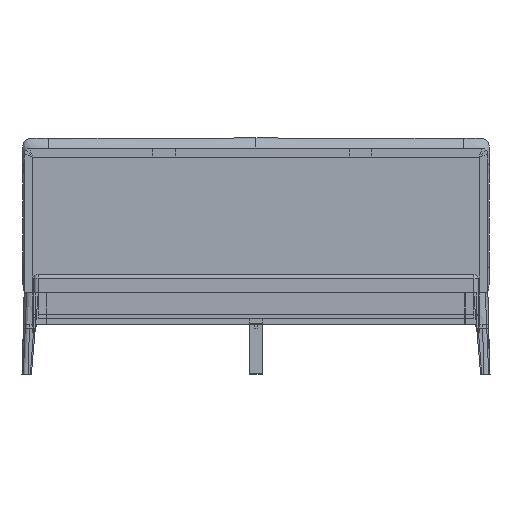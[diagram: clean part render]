
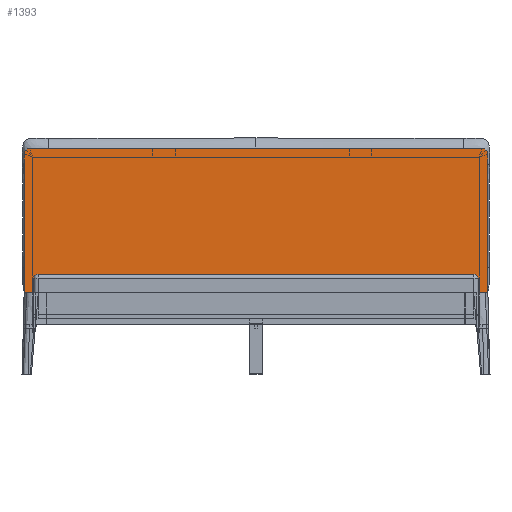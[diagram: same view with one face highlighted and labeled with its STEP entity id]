
A CAD part, front view. The second image highlights one B-rep face of the part: STEP entity #1393.
In plain terms, the highlighted planar face has unit normal (0, -1, 0).
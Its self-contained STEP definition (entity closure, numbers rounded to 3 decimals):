
#1393=ADVANCED_FACE('',(#2446),#15061,.T.);
#2446=FACE_OUTER_BOUND('',#3514,.T.);
#3514=EDGE_LOOP('',(#7783,#7784,#7785,#7786,#7787,#7788));
#7783=ORIENTED_EDGE('',*,*,#10365,.T.);
#7784=ORIENTED_EDGE('',*,*,#10319,.T.);
#7785=ORIENTED_EDGE('',*,*,#10322,.T.);
#7786=ORIENTED_EDGE('',*,*,#10364,.T.);
#7787=ORIENTED_EDGE('',*,*,#10349,.T.);
#7788=ORIENTED_EDGE('',*,*,#10345,.T.);
#10319=EDGE_CURVE('',#14170,#14172,#10823,.T.);
#10322=EDGE_CURVE('',#14172,#14173,#10826,.T.);
#10345=EDGE_CURVE('',#14189,#14188,#10836,.T.);
#10349=EDGE_CURVE('',#14190,#14189,#10840,.T.);
#10364=EDGE_CURVE('',#14173,#14190,#12774,.T.);
#10365=EDGE_CURVE('',#14188,#14170,#12775,.T.);
#10823=(
BOUNDED_CURVE()
B_SPLINE_CURVE(2,(#61551,#61552,#61553),.UNSPECIFIED.,.F.,.F.)
B_SPLINE_CURVE_WITH_KNOTS((3,3),(-10101.08,-9476.08),
 .UNSPECIFIED.)
CURVE()
GEOMETRIC_REPRESENTATION_ITEM()
RATIONAL_B_SPLINE_CURVE((1.,1.,1.))
REPRESENTATION_ITEM('')
);
#10826=(
BOUNDED_CURVE()
B_SPLINE_CURVE(2,(#61559,#61560,#61561),.UNSPECIFIED.,.F.,.F.)
B_SPLINE_CURVE_WITH_KNOTS((3,3),(-9476.08,-9436.81),
 .UNSPECIFIED.)
CURVE()
GEOMETRIC_REPRESENTATION_ITEM()
RATIONAL_B_SPLINE_CURVE((1.,0.707,1.))
REPRESENTATION_ITEM('')
);
#10836=(
BOUNDED_CURVE()
B_SPLINE_CURVE(2,(#61642,#61643,#61644),.UNSPECIFIED.,.F.,.F.)
B_SPLINE_CURVE_WITH_KNOTS((3,3),(-12612.08,-11987.08),
 .UNSPECIFIED.)
CURVE()
GEOMETRIC_REPRESENTATION_ITEM()
RATIONAL_B_SPLINE_CURVE((1.,1.,1.))
REPRESENTATION_ITEM('')
);
#10840=(
BOUNDED_CURVE()
B_SPLINE_CURVE(2,(#61652,#61653,#61654),.UNSPECIFIED.,.F.,.F.)
B_SPLINE_CURVE_WITH_KNOTS((3,3),(-7600.81,-7561.54),
 .UNSPECIFIED.)
CURVE()
GEOMETRIC_REPRESENTATION_ITEM()
RATIONAL_B_SPLINE_CURVE((1.,0.707,1.))
REPRESENTATION_ITEM('')
);
#12774=B_SPLINE_CURVE_WITH_KNOTS('',1,(#61739,#61740),.UNSPECIFIED.,.F.,
 .F.,(2,2),(0.,2036.),.UNSPECIFIED.);
#12775=B_SPLINE_CURVE_WITH_KNOTS('',1,(#61741,#61742),.UNSPECIFIED.,.F.,
 .F.,(2,2),(0.,2086.),.UNSPECIFIED.);
#14170=VERTEX_POINT('',#61436);
#14172=VERTEX_POINT('',#61438);
#14173=VERTEX_POINT('',#61439);
#14188=VERTEX_POINT('',#61454);
#14189=VERTEX_POINT('',#61455);
#14190=VERTEX_POINT('',#61456);
#15061=PLANE('',#15820);
#15820=AXIS2_PLACEMENT_3D('',#61418,#16498,$);
#16498=DIRECTION('',(0.,-1.,0.));
#61418=CARTESIAN_POINT('',(1095.292,-3475.216,1080.));
#61436=CARTESIAN_POINT('',(1043.,-3475.216,365.));
#61438=CARTESIAN_POINT('',(1043.,-3475.216,990.));
#61439=CARTESIAN_POINT('',(1018.,-3475.216,1015.));
#61454=CARTESIAN_POINT('',(-1043.,-3475.216,365.));
#61455=CARTESIAN_POINT('',(-1043.,-3475.216,990.));
#61456=CARTESIAN_POINT('',(-1018.,-3475.216,1015.));
#61551=CARTESIAN_POINT('',(1043.,-3475.216,365.));
#61552=CARTESIAN_POINT('',(1043.,-3475.216,677.5));
#61553=CARTESIAN_POINT('',(1043.,-3475.216,990.));
#61559=CARTESIAN_POINT('',(1043.,-3475.216,990.));
#61560=CARTESIAN_POINT('',(1043.,-3475.216,1015.));
#61561=CARTESIAN_POINT('',(1018.,-3475.216,1015.));
#61642=CARTESIAN_POINT('',(-1043.,-3475.216,990.));
#61643=CARTESIAN_POINT('',(-1043.,-3475.216,677.5));
#61644=CARTESIAN_POINT('',(-1043.,-3475.216,365.));
#61652=CARTESIAN_POINT('',(-1018.,-3475.216,1015.));
#61653=CARTESIAN_POINT('',(-1043.,-3475.216,1015.));
#61654=CARTESIAN_POINT('',(-1043.,-3475.216,990.));
#61739=CARTESIAN_POINT('',(1018.,-3475.216,1015.));
#61740=CARTESIAN_POINT('',(-1018.,-3475.216,1015.));
#61741=CARTESIAN_POINT('',(-1043.,-3475.216,365.));
#61742=CARTESIAN_POINT('',(1043.,-3475.216,365.));
